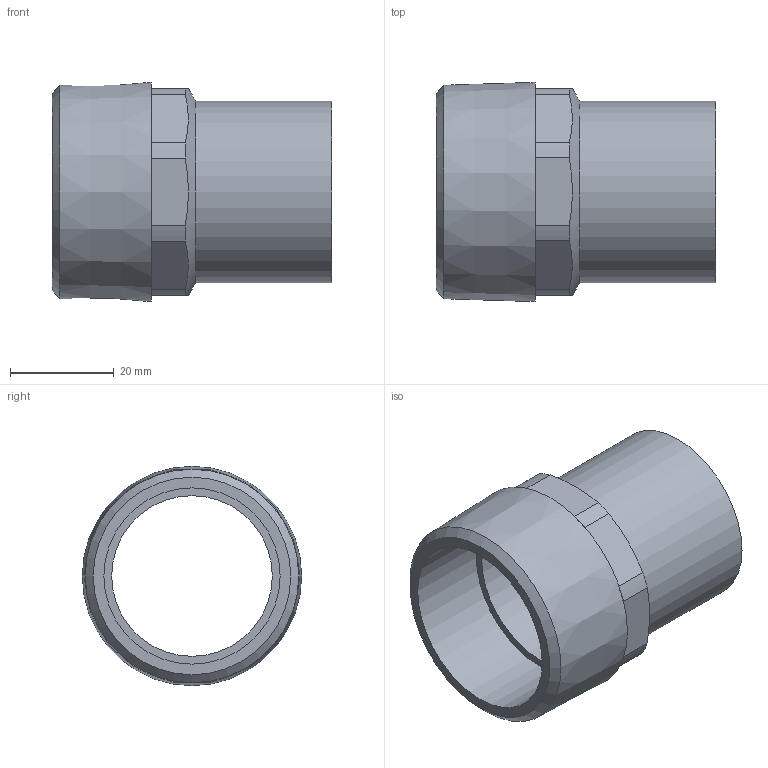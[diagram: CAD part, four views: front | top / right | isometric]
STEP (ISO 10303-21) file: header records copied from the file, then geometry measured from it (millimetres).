
FILE_DESCRIPTION(/* description */ (''),/* implementation_level */ '2;1');
FILE_NAME(/* name */ '\\lg50011\SANHA_LEGNICA\Engineering\Public\RYSUNKI\SANHA POLSKA\4280G\step\14280g_35-114(2).stp',/* time_stamp */ '2022-01-03T10:23:38+01:00',/* author */ ('gomulka'),/* organization */ (''),/* preprocessor_version */ 'ST-DEVELOPER v18.1',/* originating_system */ 'Autodesk Inventor 2021',/* authorisation */ '');
FILE_SCHEMA (('AUTOMOTIVE_DESIGN { 1 0 10303 214 3 1 1 }'));
Length unit declared in the file: millimetre
Products named in the file (1): 14280g_35-114(2)
Bounding box: 54 x 42.31 x 42.31 mm (x, y, z)
Volume: 19035.2 mm3; surface area: 12870.8 mm2
Topology: 1 solids, 1 shells, 26 faces, 79 edges, 57 vertices
Faces by surface type: plane 12, cylinder 11, cone 3
Full cylindrical faces by diameter (mm): 31 x1, 34 x1, 35 x1
Entity records: 949 total; most frequent: CARTESIAN_POINT 195, ORIENTED_EDGE 158, DIRECTION 150, EDGE_CURVE 79, AXIS2_PLACEMENT_3D 60, VERTEX_POINT 57, CIRCLE 33, EDGE_LOOP 30
